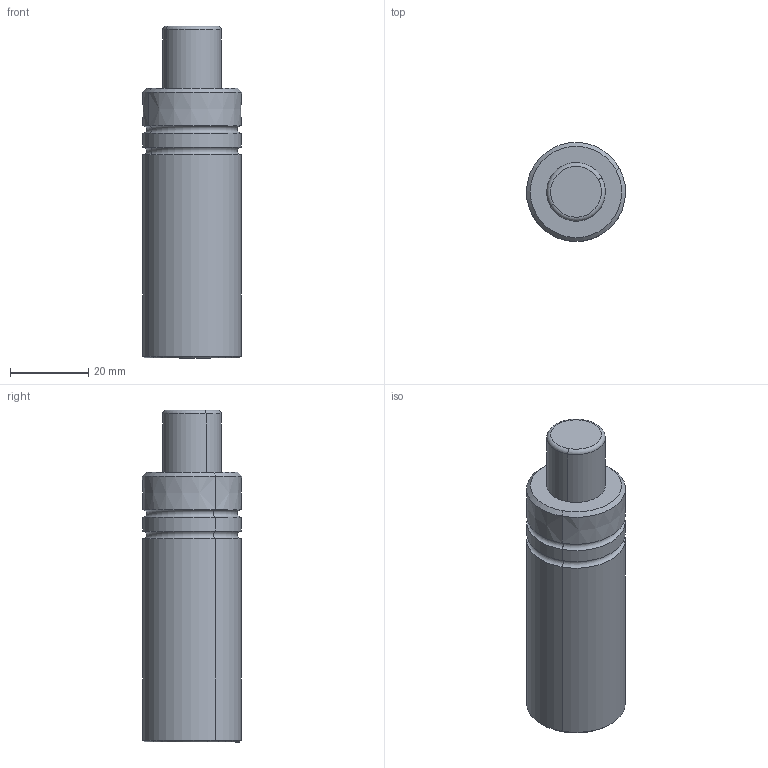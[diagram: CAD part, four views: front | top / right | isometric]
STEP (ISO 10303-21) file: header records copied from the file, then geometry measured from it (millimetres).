
FILE_DESCRIPTION(('CATIA V5 STEP Exchange'),'2;1');
FILE_NAME('W:\CATALOGO GENERAL 2018\FICHEROS CAD\003-TPH\TPH 320\TPH320x15.stp','2024-05-21T13:12:42+00:00',('none'),('none'),'CATIA Version 5 Release 17 (IN-10)','CATIA V5 STEP AP203','none');
FILE_SCHEMA(('CONFIG_CONTROL_DESIGN'));
Length unit declared in the file: millimetre
Products named in the file (1): TPH320
Bounding box: 25.38 x 25.38 x 85 mm (x, y, z)
Volume: 36837.9 mm3; surface area: 7377 mm2
Topology: 1 solids, 1 shells, 26 faces, 50 edges, 28 vertices
Faces by surface type: cylinder 8, cone 8, torus 6, plane 4
Entity records: 613 total; most frequent: ORIENTED_EDGE 100, CARTESIAN_POINT 94, DIRECTION 80, AXIS2_PLACEMENT_3D 50, EDGE_CURVE 50, CIRCLE 34, EDGE_LOOP 28, VERTEX_POINT 28
